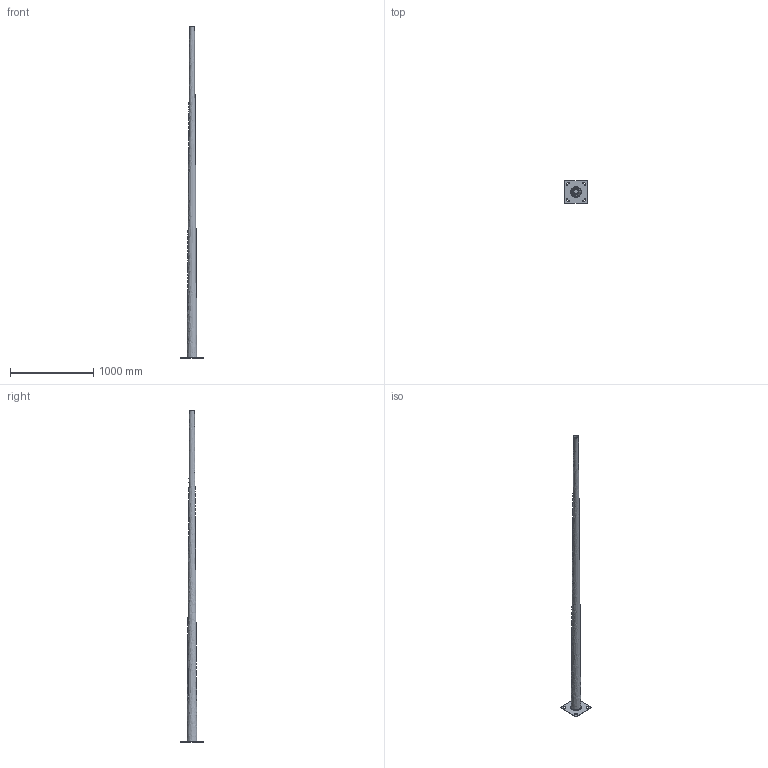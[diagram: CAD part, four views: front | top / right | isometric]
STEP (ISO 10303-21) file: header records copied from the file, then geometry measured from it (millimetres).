
FILE_DESCRIPTION(('FreeCAD Model'),'2;1');
FILE_NAME('Open CASCADE Shape Model','2024-12-18T14:12:28',(''),(''), 'Open CASCADE STEP processor 7.8','FreeCAD','Unknown');
FILE_SCHEMA(('AUTOMOTIVE_DESIGN { 1 0 10303 214 1 1 1 1 }'));
Length unit declared in the file: millimetre
Products named in the file (1): Body
Bounding box: 270 x 270 x 4000 mm (x, y, z)
Volume: 3619031.7 mm3; surface area: 2330949.6 mm2
Topology: 1 solids, 1 shells, 51 faces, 140 edges, 93 vertices
Faces by surface type: plane 32, cylinder 16, bspline 2, offset 1
Entity records: 3101 total; most frequent: CARTESIAN_POINT 1858, ORIENTED_EDGE 280, DIRECTION 198, EDGE_CURVE 140, VERTEX_POINT 93, LINE 68, VECTOR 68, AXIS2_PLACEMENT_3D 65
